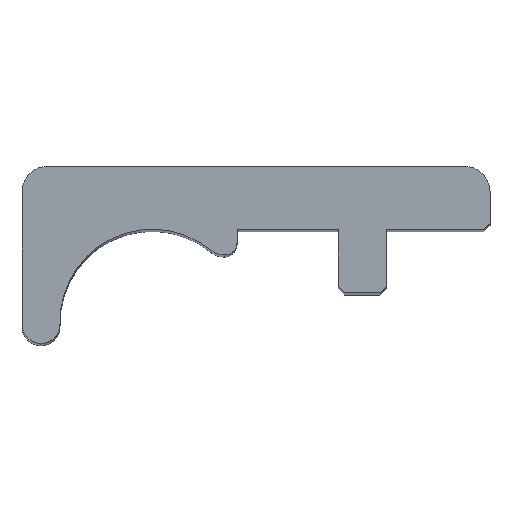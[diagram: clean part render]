
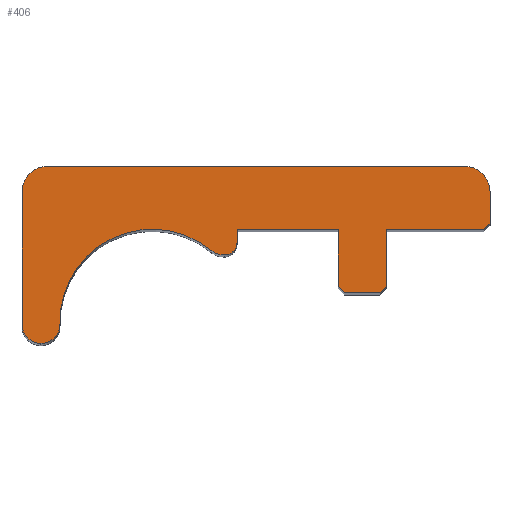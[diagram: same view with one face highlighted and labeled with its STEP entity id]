
A CAD part, top view. The second image highlights one B-rep face of the part: STEP entity #406.
In plain terms, the highlighted planar face has unit normal (0, 0, 1).
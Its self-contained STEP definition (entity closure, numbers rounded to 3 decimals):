
#15=CIRCLE('',#427,2.);
#17=CIRCLE('',#431,2.);
#19=CIRCLE('',#435,1.5);
#21=CIRCLE('',#438,1.5);
#23=CIRCLE('',#441,7.3);
#25=CIRCLE('',#444,1.721);
#27=CIRCLE('',#447,1.);
#55=FACE_OUTER_BOUND('',#76,.T.);
#76=EDGE_LOOP('',(#335,#336,#337,#338,#339,#340,#341,#342,#343,#344,#345,
#346,#347,#348,#349,#350,#351,#352,#353));
#78=LINE('',#576,#121);
#82=LINE('',#584,#125);
#85=LINE('',#590,#128);
#88=LINE('',#596,#131);
#92=LINE('',#608,#135);
#96=LINE('',#620,#139);
#104=LINE('',#656,#147);
#107=LINE('',#662,#150);
#110=LINE('',#668,#153);
#113=LINE('',#674,#156);
#116=LINE('',#680,#159);
#119=LINE('',#685,#162);
#121=VECTOR('',#461,10.);
#125=VECTOR('',#467,10.);
#128=VECTOR('',#472,10.);
#131=VECTOR('',#477,10.);
#135=VECTOR('',#489,10.);
#139=VECTOR('',#501,10.);
#147=VECTOR('',#541,10.);
#150=VECTOR('',#546,10.);
#153=VECTOR('',#551,10.);
#156=VECTOR('',#556,10.);
#159=VECTOR('',#561,10.);
#162=VECTOR('',#566,10.);
#164=VERTEX_POINT('',#574);
#165=VERTEX_POINT('',#575);
#168=VERTEX_POINT('',#583);
#170=VERTEX_POINT('',#589);
#172=VERTEX_POINT('',#595);
#174=VERTEX_POINT('',#601);
#176=VERTEX_POINT('',#607);
#178=VERTEX_POINT('',#613);
#180=VERTEX_POINT('',#619);
#182=VERTEX_POINT('',#625);
#184=VERTEX_POINT('',#631);
#186=VERTEX_POINT('',#637);
#188=VERTEX_POINT('',#643);
#190=VERTEX_POINT('',#649);
#192=VERTEX_POINT('',#655);
#194=VERTEX_POINT('',#661);
#196=VERTEX_POINT('',#667);
#198=VERTEX_POINT('',#673);
#200=VERTEX_POINT('',#679);
#202=EDGE_CURVE('',#164,#165,#78,.T.);
#206=EDGE_CURVE('',#165,#168,#82,.T.);
#209=EDGE_CURVE('',#168,#170,#85,.T.);
#212=EDGE_CURVE('',#170,#172,#88,.T.);
#215=EDGE_CURVE('',#172,#174,#15,.T.);
#218=EDGE_CURVE('',#174,#176,#92,.T.);
#221=EDGE_CURVE('',#176,#178,#17,.T.);
#224=EDGE_CURVE('',#178,#180,#96,.T.);
#227=EDGE_CURVE('',#180,#182,#19,.T.);
#230=EDGE_CURVE('',#182,#184,#21,.T.);
#233=EDGE_CURVE('',#186,#184,#23,.T.);
#236=EDGE_CURVE('',#186,#188,#25,.T.);
#239=EDGE_CURVE('',#188,#190,#27,.T.);
#242=EDGE_CURVE('',#192,#190,#104,.T.);
#245=EDGE_CURVE('',#194,#192,#107,.T.);
#248=EDGE_CURVE('',#196,#194,#110,.T.);
#251=EDGE_CURVE('',#198,#196,#113,.T.);
#254=EDGE_CURVE('',#198,#200,#116,.T.);
#257=EDGE_CURVE('',#200,#164,#119,.T.);
#335=ORIENTED_EDGE('',*,*,#257,.T.);
#336=ORIENTED_EDGE('',*,*,#202,.T.);
#337=ORIENTED_EDGE('',*,*,#206,.T.);
#338=ORIENTED_EDGE('',*,*,#209,.T.);
#339=ORIENTED_EDGE('',*,*,#212,.T.);
#340=ORIENTED_EDGE('',*,*,#215,.T.);
#341=ORIENTED_EDGE('',*,*,#218,.T.);
#342=ORIENTED_EDGE('',*,*,#221,.T.);
#343=ORIENTED_EDGE('',*,*,#224,.T.);
#344=ORIENTED_EDGE('',*,*,#227,.T.);
#345=ORIENTED_EDGE('',*,*,#230,.T.);
#346=ORIENTED_EDGE('',*,*,#233,.F.);
#347=ORIENTED_EDGE('',*,*,#236,.T.);
#348=ORIENTED_EDGE('',*,*,#239,.T.);
#349=ORIENTED_EDGE('',*,*,#242,.F.);
#350=ORIENTED_EDGE('',*,*,#245,.F.);
#351=ORIENTED_EDGE('',*,*,#248,.F.);
#352=ORIENTED_EDGE('',*,*,#251,.F.);
#353=ORIENTED_EDGE('',*,*,#254,.T.);
#385=PLANE('',#455);
#406=ADVANCED_FACE('',(#55),#385,.T.);
#427=AXIS2_PLACEMENT_3D('',#602,#482,#483);
#431=AXIS2_PLACEMENT_3D('',#614,#494,#495);
#435=AXIS2_PLACEMENT_3D('',#626,#506,#507);
#438=AXIS2_PLACEMENT_3D('',#632,#513,#514);
#441=AXIS2_PLACEMENT_3D('',#638,#520,#521);
#444=AXIS2_PLACEMENT_3D('',#644,#527,#528);
#447=AXIS2_PLACEMENT_3D('',#650,#534,#535);
#455=AXIS2_PLACEMENT_3D('',#687,#568,#569);
#461=DIRECTION('',(0.,1.,0.));
#467=DIRECTION('',(1.,0.,0.));
#472=DIRECTION('',(0.707,0.707,0.));
#477=DIRECTION('',(0.,1.,0.));
#482=DIRECTION('center_axis',(0.,0.,1.));
#483=DIRECTION('ref_axis',(1.,0.,0.));
#489=DIRECTION('',(-1.,0.,0.));
#494=DIRECTION('center_axis',(0.,0.,1.));
#495=DIRECTION('ref_axis',(0.,1.,0.));
#501=DIRECTION('',(0.,-1.,0.));
#506=DIRECTION('center_axis',(0.,0.,1.));
#507=DIRECTION('ref_axis',(-1.,0.,0.));
#513=DIRECTION('center_axis',(0.,0.,1.));
#514=DIRECTION('ref_axis',(-0.001,-1.,0.));
#520=DIRECTION('center_axis',(0.,0.,1.));
#521=DIRECTION('ref_axis',(0.644,0.765,0.));
#527=DIRECTION('center_axis',(0.,0.,1.));
#528=DIRECTION('ref_axis',(-0.581,-0.814,0.));
#534=DIRECTION('center_axis',(0.,0.,1.));
#535=DIRECTION('ref_axis',(0.,-1.,0.));
#541=DIRECTION('',(0.,-1.,0.));
#546=DIRECTION('',(-1.,0.,0.));
#551=DIRECTION('',(0.,1.,0.));
#556=DIRECTION('',(-0.707,0.707,0.));
#561=DIRECTION('',(1.,0.,0.));
#566=DIRECTION('',(0.707,0.707,0.));
#568=DIRECTION('center_axis',(0.,0.,1.));
#569=DIRECTION('ref_axis',(1.,0.,0.));
#574=CARTESIAN_POINT('',(3.8,0.5,0.));
#575=CARTESIAN_POINT('',(3.8,5.,0.));
#576=CARTESIAN_POINT('',(3.8,0.5,0.));
#583=CARTESIAN_POINT('',(11.5,5.,0.));
#584=CARTESIAN_POINT('',(3.8,5.,0.));
#589=CARTESIAN_POINT('',(12.,5.5,0.));
#590=CARTESIAN_POINT('',(11.5,5.,0.));
#595=CARTESIAN_POINT('',(12.,8.,0.));
#596=CARTESIAN_POINT('',(12.,5.5,0.));
#601=CARTESIAN_POINT('',(10.,10.,0.));
#602=CARTESIAN_POINT('Origin',(10.,8.,0.));
#607=CARTESIAN_POINT('',(-23.,10.,0.));
#608=CARTESIAN_POINT('',(10.,10.,0.));
#613=CARTESIAN_POINT('',(-25.,8.,0.));
#614=CARTESIAN_POINT('Origin',(-23.,8.,0.));
#619=CARTESIAN_POINT('',(-25.,-2.5,0.));
#620=CARTESIAN_POINT('',(-25.,8.,0.));
#625=CARTESIAN_POINT('',(-23.498,-4.,0.));
#626=CARTESIAN_POINT('Origin',(-23.5,-2.5,0.));
#631=CARTESIAN_POINT('',(-21.996,-2.5,0.));
#632=CARTESIAN_POINT('Origin',(-23.496,-2.5,0.));
#637=CARTESIAN_POINT('',(-10.001,3.316,0.));
#638=CARTESIAN_POINT('Origin',(-14.7,-2.271,0.));
#643=CARTESIAN_POINT('',(-9.,2.995,0.));
#644=CARTESIAN_POINT('Origin',(-9.,4.716,0.));
#649=CARTESIAN_POINT('',(-8.,3.995,0.));
#650=CARTESIAN_POINT('Origin',(-9.,3.995,0.));
#655=CARTESIAN_POINT('',(-8.,5.,0.));
#656=CARTESIAN_POINT('',(-8.,5.,0.));
#661=CARTESIAN_POINT('',(0.,5.,0.));
#662=CARTESIAN_POINT('',(0.,5.,0.));
#667=CARTESIAN_POINT('',(0.,0.5,0.));
#668=CARTESIAN_POINT('',(0.,0.5,0.));
#673=CARTESIAN_POINT('',(0.5,0.,0.));
#674=CARTESIAN_POINT('',(0.5,0.,0.));
#679=CARTESIAN_POINT('',(3.3,0.,0.));
#680=CARTESIAN_POINT('',(0.5,0.,0.));
#685=CARTESIAN_POINT('',(3.3,0.,0.));
#687=CARTESIAN_POINT('Origin',(-6.5,3.,0.));
